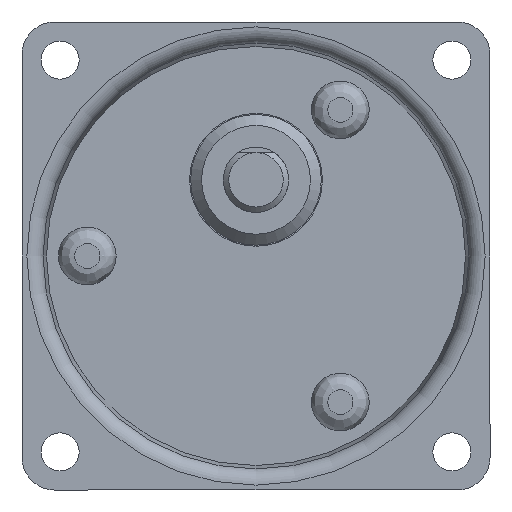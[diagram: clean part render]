
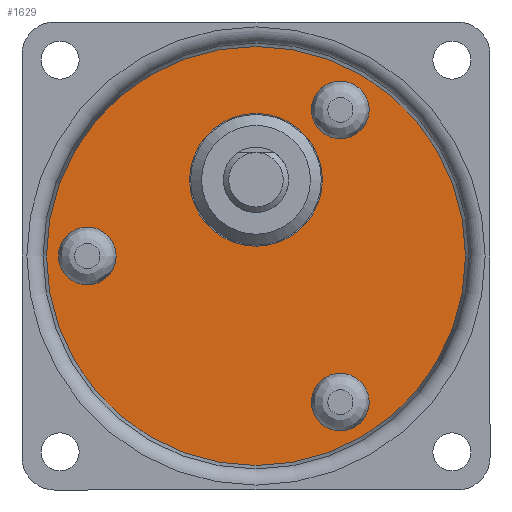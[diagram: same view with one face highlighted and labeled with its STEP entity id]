
A CAD part, front view. The second image highlights one B-rep face of the part: STEP entity #1629.
In plain terms, the highlighted planar face has unit normal (0, -1, 0).
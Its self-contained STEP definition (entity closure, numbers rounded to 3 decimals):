
#1116=CARTESIAN_POINT('',(6.425,3.5,-11.128));
#1117=VERTEX_POINT('',#1116);
#1118=CARTESIAN_POINT('',(7.75,3.5,-13.423));
#1119=DIRECTION('',(0.0,1.0,0.0));
#1120=DIRECTION('',(0.5,0.0,-0.866));
#1121=AXIS2_PLACEMENT_3D('',#1118,#1119,#1120);
#1122=CIRCLE('',#1121,2.65);
#1123=EDGE_CURVE('',#1117,#1117,#1122,.T.);
#1221=CARTESIAN_POINT('',(6.425,3.5,11.128));
#1222=VERTEX_POINT('',#1221);
#1223=CARTESIAN_POINT('',(7.75,3.5,13.423));
#1224=DIRECTION('',(0.0,1.,0.0));
#1225=DIRECTION('',(0.5,0.0,0.866));
#1226=AXIS2_PLACEMENT_3D('',#1223,#1224,#1225);
#1227=CIRCLE('',#1226,2.65);
#1228=EDGE_CURVE('',#1222,#1222,#1227,.T.);
#1326=CARTESIAN_POINT('',(-12.85,3.5,0.));
#1327=VERTEX_POINT('',#1326);
#1328=CARTESIAN_POINT('',(-15.5,3.5,0.0));
#1329=DIRECTION('',(0.0,1.0,0.0));
#1330=DIRECTION('',(-1.0,0.0,0.0));
#1331=AXIS2_PLACEMENT_3D('',#1328,#1329,#1330);
#1332=CIRCLE('',#1331,2.65);
#1333=EDGE_CURVE('',#1327,#1327,#1332,.T.);
#1366=CARTESIAN_POINT('',(6.1,3.5,7.));
#1367=VERTEX_POINT('',#1366);
#1368=CARTESIAN_POINT('',(0.0,3.5,7.));
#1369=DIRECTION('',(0.0,1.0,0.0));
#1370=DIRECTION('',(-1.0,0.0,0.0));
#1371=AXIS2_PLACEMENT_3D('',#1368,#1369,#1370);
#1372=CIRCLE('',#1371,6.1);
#1373=EDGE_CURVE('',#1367,#1367,#1372,.T.);
#1471=CARTESIAN_POINT('',(0.,3.5,-19.25));
#1472=VERTEX_POINT('',#1471);
#1473=CARTESIAN_POINT('',(0.0,3.5,0.0));
#1474=DIRECTION('',(0.0,-1.0,0.0));
#1475=DIRECTION('',(0.0,0.0,1.0));
#1476=AXIS2_PLACEMENT_3D('',#1473,#1474,#1475);
#1477=CIRCLE('',#1476,19.25);
#1478=EDGE_CURVE('',#1472,#1472,#1477,.F.);
#1609=CARTESIAN_POINT('',(0.0,3.5,10.059));
#1610=DIRECTION('',(0.0,1.0,0.0));
#1611=DIRECTION('',(0.0,0.0,1.0));
#1612=AXIS2_PLACEMENT_3D('',#1609,#1610,#1611);
#1613=PLANE('',#1612);
#1614=ORIENTED_EDGE('',*,*,#1478,.F.);
#1615=EDGE_LOOP('',(#1614));
#1616=FACE_OUTER_BOUND('',#1615,.T.);
#1617=ORIENTED_EDGE('',*,*,#1123,.T.);
#1618=EDGE_LOOP('',(#1617));
#1619=FACE_BOUND('',#1618,.T.);
#1620=ORIENTED_EDGE('',*,*,#1228,.T.);
#1621=EDGE_LOOP('',(#1620));
#1622=FACE_BOUND('',#1621,.T.);
#1623=ORIENTED_EDGE('',*,*,#1333,.T.);
#1624=EDGE_LOOP('',(#1623));
#1625=FACE_BOUND('',#1624,.T.);
#1626=ORIENTED_EDGE('',*,*,#1373,.T.);
#1627=EDGE_LOOP('',(#1626));
#1628=FACE_BOUND('',#1627,.T.);
#1629=ADVANCED_FACE('',(#1616,#1619,#1622,#1625,#1628),#1613,.F.);
